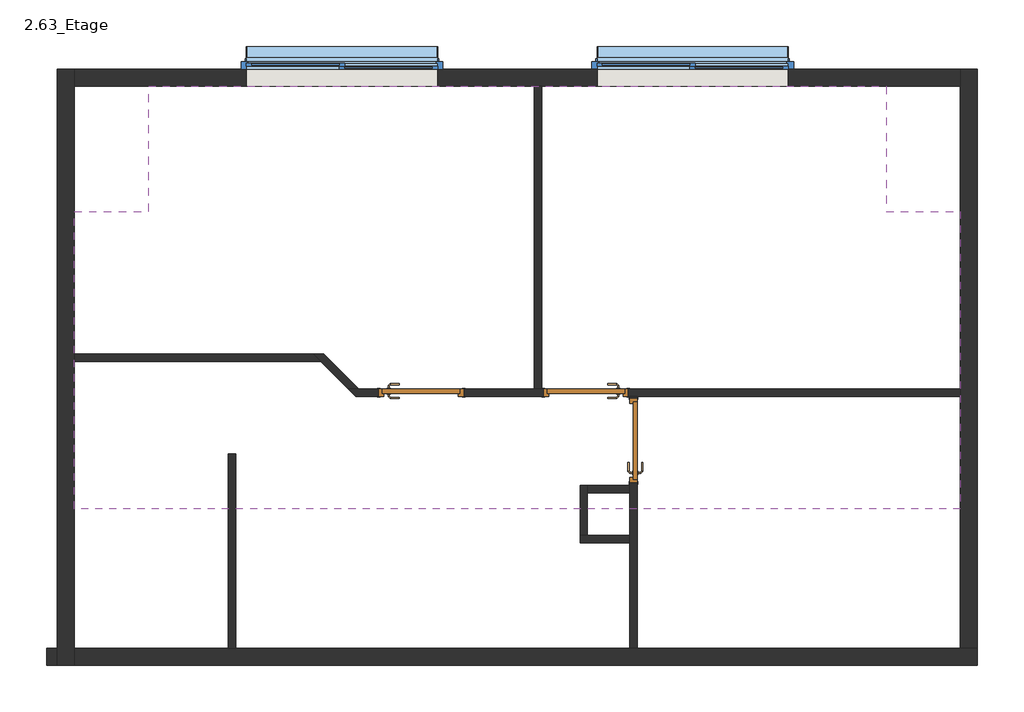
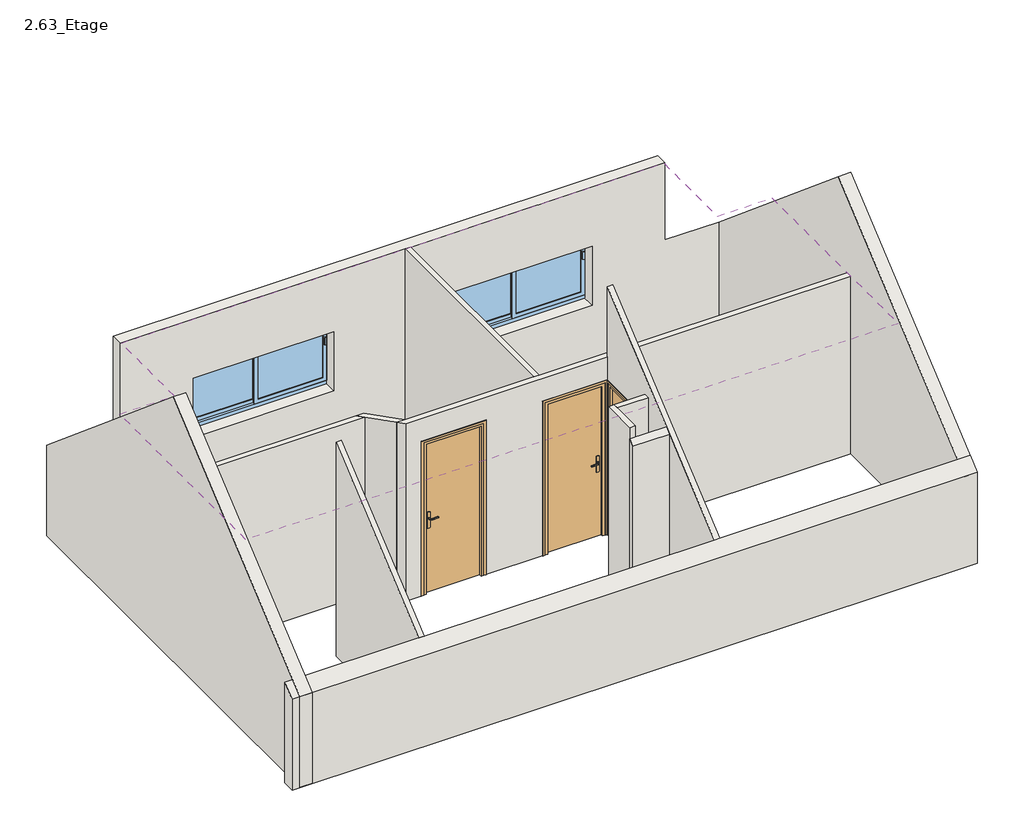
# One storey: 13 walls, 3 doors, 2 windows, 1 covering.
"""IFC4 building model written with IfcOpenShell, lengths in millimetres."""

from ifc_helpers import new_model, si_unit, frame, origin, place, context, project, spatial, polyline, outline, extrude, faceted_brep, transform, mapped, element, save
from components import int_simple_pp_0_73m_x_2_04m_0234ae46, int_simple_pp_0_73m_x_2_04m_d65dadfb, window_180_80_56cb69c2

model = new_model("IFC4")

# Units and contexts
model_context = context("Model", 3, world=origin())
ifc_project = project(units=[si_unit("LENGTHUNIT", "METRE", prefix="MILLI")], contexts=[model_context])

# Site, building, storey
site = spatial("IfcSite", under=ifc_project)
building = spatial("IfcBuilding", under=site)
storey = spatial("IfcBuildingStorey", under=building, Name="2.63_Etage", Elevation=2630.0)

# Covering
placement = place(None, origin())
element("IfcCovering", 1, ObjectType="Plafond avec isolation", at=placement, inside=storey, context=model_context, shape_type="SweptSolid", body=[
    extrude(outline(polyline([(-9881.7726031, 6859.9231713), (-9881.7726031, 5682.4512571), (-9181.7726031, 5682.4512571), (-9181.7726031, 2882.4512571), (-17521.7726031, 2882.4512571), (-17521.7726031, 5682.4512571), (-16821.7726031, 5682.4512571), (-16821.7726031, 6859.9231713), (-9881.7726031, 6859.9231713)])), frame((0.0, 0.0, 5030.0), z_axis=(0.0, 0.0, 1.0), x_axis=(1.0, 0.0, 0.0)), (0.0, 0.0, 1.0), 70.0),
])

# Doors
int_simple_pp_0_73m_x_2_04m_shape = int_simple_pp_0_73m_x_2_04m_0234ae46(model_context)
element("IfcDoor", 2, ObjectType="Int. Simple : PP (0.73m x 2.04m)", at=placement, inside=storey, context=model_context, shape_type="MappedRepresentation", body=[
    mapped(int_simple_pp_0_73m_x_2_04m_shape, transform((-12741.7726031, 3974.9231713, 2630.0), x_axis=(-1.0, 0.0, 0.0), y_axis=(0.0, -1.0, 0.0), z_axis=(0.0, 0.0, 1.0))),
])
element("IfcDoor", 3, ObjectType="Int. Simple : PP (0.73m x 2.04m)", at=placement, inside=storey, context=model_context, shape_type="MappedRepresentation", body=[
    mapped(int_simple_pp_0_73m_x_2_04m_shape, transform((-12256.7726031, 3559.9231713, 2630.0), x_axis=(0.0, 1.0, 0.0), y_axis=(-1.0, 0.0, 0.0), z_axis=(0.0, 0.0, 1.0))),
])
int_simple_pp_0_73m_x_2_04m_2_shape = int_simple_pp_0_73m_x_2_04m_d65dadfb(model_context)
element("IfcDoor", 4, ObjectType="Int. Simple : PP (0.73m x 2.04m)", at=placement, inside=storey, context=model_context, shape_type="MappedRepresentation", body=[
    mapped(int_simple_pp_0_73m_x_2_04m_2_shape, transform((-14221.7726031, 3974.9231713, 2630.0), x_axis=(1.0, 0.0, 0.0), y_axis=(0.0, 1.0, 0.0), z_axis=(0.0, 0.0, 1.0))),
])

# Walls
element("IfcWall", 5, ObjectType="Doublage 16", at=placement, inside=storey, context=model_context, shape_type="Brep", body=[
    faceted_brep([(-9181.7726031, 7019.9231713, 2630.0), (-9181.7726031, 6859.9231713, 2630.0), (-9181.7726031, 4009.9231713, 2630.0), (-9181.7726031, 3939.9231713, 2630.0), (-9181.7726031, 1409.9231713, 2630.0), (-9181.7726031, 1409.9231713, 3855.1398525), (-9181.7726031, 4214.9231713, 6208.8143179), (-9181.7726031, 6859.9231713, 3989.3957935), (-9181.7726031, 7019.9231713, 3855.1398525), (-9021.7726031, 7019.9231713, 2630.0), (-9021.7726031, 7019.9231713, 3855.1398525), (-9021.7726031, 4214.9231713, 6208.8143179), (-9021.7726031, 1409.9231713, 3855.1398525), (-9021.7726031, 1409.9231713, 2630.0)], [[[0, 1, 2, 3, 4, 5, 6, 7, 8]], [[9, 10, 11, 12, 13]], [[4, 3, 2, 1, 0, 9, 13]], [[8, 7, 6, 11, 10]], [[6, 5, 12, 11]], [[5, 4, 13, 12]], [[0, 8, 10, 9]]]),
])
element("IfcWall", 6, ObjectType="Doublage 16", at=placement, inside=storey, context=model_context, shape_type="Brep", body=[
    faceted_brep([(-9021.7726031, 1569.9231713, 2630.0), (-12221.7726031, 1569.9231713, 2630.0), (-12291.7726031, 1569.9231713, 2630.0), (-16001.7726031, 1569.9231713, 2630.0), (-16071.7726031, 1569.9231713, 2630.0), (-17781.7726031, 1569.9231713, 2630.0), (-17781.7726031, 1569.9231713, 3989.3957935), (-16071.7726031, 1569.9231713, 3989.3957935), (-16001.7726031, 1569.9231713, 3989.3957935), (-12291.7726031, 1569.9231713, 3989.3957935), (-12221.7726031, 1569.9231713, 3989.3957935), (-9021.7726031, 1569.9231713, 3989.3957935), (-9021.7726031, 1409.9231713, 2630.0), (-9021.7726031, 1409.9231713, 3855.1398525), (-17781.7726031, 1409.9231713, 3855.1398525), (-17781.7726031, 1409.9231713, 2630.0)], [[[0, 1, 2, 3, 4, 5, 6, 7, 8, 9, 10, 11]], [[12, 13, 14, 15]], [[5, 4, 3, 2, 1, 0, 12, 15]], [[6, 5, 15, 14]], [[0, 11, 13, 12]], [[11, 10, 9, 8, 7, 6, 14, 13]]]),
])
element("IfcWall", 7, ObjectType="Doublage 16", at=placement, inside=storey, context=model_context, shape_type="Brep", body=[
    faceted_brep([(-17521.7726031, 1409.9231713, 2630.0), (-17521.7726031, 4269.9231713, 2630.0), (-17521.7726031, 4339.9231713, 2630.0), (-17521.7726031, 6859.9231713, 2630.0), (-17521.7726031, 7019.9231713, 2630.0), (-17521.7726031, 7019.9231713, 3855.1398525), (-17521.7726031, 6859.9231713, 3989.3957935), (-17521.7726031, 4214.9231713, 6208.8143179), (-17521.7726031, 1409.9231713, 3855.1398525), (-17681.7726031, 1409.9231713, 2630.0), (-17681.7726031, 1409.9231713, 3855.1398525), (-17681.7726031, 4214.9231713, 6208.8143179), (-17681.7726031, 7019.9231713, 3855.1398525), (-17681.7726031, 7019.9231713, 2630.0)], [[[0, 1, 2, 3, 4, 5, 6, 7, 8]], [[9, 10, 11, 12, 13]], [[4, 3, 2, 1, 0, 9, 13]], [[5, 4, 13, 12]], [[0, 8, 10, 9]], [[8, 7, 11, 10]], [[7, 6, 5, 12, 11]]]),
])
element("IfcWall", 8, ObjectType="Doublage 16", at=placement, inside=storey, context=model_context, shape_type="Brep", body=[
    faceted_brep([(-17521.7726031, 6859.9231713, 2630.0), (-13191.7726031, 6859.9231713, 2630.0), (-13121.7726031, 6859.9231713, 2630.0), (-9181.7726031, 6859.9231713, 2630.0), (-9181.7726031, 6859.9231713, 3989.3957935), (-9871.7726031, 6859.9231713, 3989.3957935), (-9871.7726031, 6859.9231713, 5030.0), (-13121.7726031, 6859.9231713, 5030.0), (-13191.7726031, 6859.9231713, 5030.0), (-16831.7726031, 6859.9231713, 5030.0), (-16831.7726031, 6859.9231713, 3989.3957935), (-17521.7726031, 6859.9231713, 3989.3957935), (-15901.7726031, 6859.9231713, 3430.0), (-15901.7726031, 6859.9231713, 4230.0), (-14101.7726031, 6859.9231713, 4230.0), (-14101.7726031, 6859.9231713, 3430.0), (-12601.7726031, 6859.9231713, 3430.0), (-12601.7726031, 6859.9231713, 4230.0), (-10801.7726031, 6859.9231713, 4230.0), (-10801.7726031, 6859.9231713, 3430.0), (-9181.7726031, 7019.9231713, 2630.0), (-17521.7726031, 7019.9231713, 2630.0), (-17521.7726031, 7019.9231713, 3855.1398525), (-16831.7726031, 7019.9231713, 3855.1398525), (-16831.7726031, 7019.9231713, 5030.0), (-9871.7726031, 7019.9231713, 5030.0), (-9871.7726031, 7019.9231713, 3855.1398525), (-9181.7726031, 7019.9231713, 3855.1398525), (-15901.7726031, 7019.9231713, 4230.0), (-15901.7726031, 7019.9231713, 3430.0), (-14101.7726031, 7019.9231713, 3430.0), (-14101.7726031, 7019.9231713, 4230.0), (-12601.7726031, 7019.9231713, 4230.0), (-12601.7726031, 7019.9231713, 3430.0), (-10801.7726031, 7019.9231713, 3430.0), (-10801.7726031, 7019.9231713, 4230.0)], [[[0, 1, 2, 3, 4, 5, 6, 7, 8, 9, 10, 11], [12, 13, 14, 15], [16, 17, 18, 19]], [[20, 21, 22, 23, 24, 25, 26, 27], [28, 29, 30, 31], [32, 33, 34, 35]], [[3, 2, 1, 0, 21, 20]], [[4, 3, 20, 27]], [[0, 11, 22, 21]], [[12, 29, 28, 13]], [[14, 31, 30, 15]], [[29, 12, 15, 30]], [[13, 28, 31, 14]], [[16, 33, 32, 17]], [[18, 35, 34, 19]], [[33, 16, 19, 34]], [[17, 32, 35, 18]], [[9, 24, 23, 10]], [[24, 9, 8, 7, 6, 25]], [[25, 6, 5, 26]], [[5, 4, 27, 26]], [[11, 10, 23, 22]]]),
])
element("IfcWall", 9, ObjectType="Cloison 7cm", at=placement, inside=storey, context=model_context, shape_type="Brep", body=[
    faceted_brep([(-14941.7726031, 4009.9231713, 5030.0), (-14842.7776538, 4009.9231713, 5030.0), (-13191.7726031, 4009.9231713, 5030.0), (-13121.7726031, 4009.9231713, 5030.0), (-9181.7726031, 4009.9231713, 5030.0), (-9181.7726031, 4009.9231713, 2630.0), (-12306.7726031, 4009.9231713, 2630.0), (-12306.7726031, 4009.9231713, 4705.0), (-13106.7726031, 4009.9231713, 4705.0), (-13106.7726031, 4009.9231713, 2630.0), (-13121.7726031, 4009.9231713, 2630.0), (-13191.7726031, 4009.9231713, 2630.0), (-13856.7726031, 4009.9231713, 2630.0), (-13856.7726031, 4009.9231713, 4705.0), (-14656.7726031, 4009.9231713, 4705.0), (-14656.7726031, 4009.9231713, 2630.0), (-14842.7776538, 4009.9231713, 2630.0), (-14941.7726031, 4009.9231713, 2630.0), (-9181.7726031, 3939.9231713, 5030.0), (-14871.7726031, 3939.9231713, 5030.0), (-14871.7726031, 3939.9231713, 2630.0), (-14656.7726031, 3939.9231713, 2630.0), (-14656.7726031, 3939.9231713, 4705.0), (-13856.7726031, 3939.9231713, 4705.0), (-13856.7726031, 3939.9231713, 2630.0), (-13106.7726031, 3939.9231713, 2630.0), (-13106.7726031, 3939.9231713, 4705.0), (-12306.7726031, 3939.9231713, 4705.0), (-12306.7726031, 3939.9231713, 2630.0), (-12291.7726031, 3939.9231713, 2630.0), (-12221.7726031, 3939.9231713, 2630.0), (-9181.7726031, 3939.9231713, 2630.0)], [[[0, 1, 2, 3, 4, 5, 6, 7, 8, 9, 10, 11, 12, 13, 14, 15, 16, 17]], [[18, 19, 20, 21, 22, 23, 24, 25, 26, 27, 28, 29, 30, 31]], [[5, 31, 30, 29, 28, 6]], [[20, 17, 16, 15, 21]], [[24, 12, 11, 10, 9, 25]], [[4, 3, 2, 1, 0, 19, 18]], [[5, 4, 18, 31]], [[0, 17, 20, 19]], [[23, 13, 12, 24]], [[13, 23, 22, 14]], [[14, 22, 21, 15]], [[8, 26, 25, 9]], [[26, 8, 7, 27]], [[27, 7, 6, 28]]]),
])
element("IfcWall", 10, ObjectType="Cloison 7cm", at=placement, inside=storey, context=model_context, shape_type="Brep", body=[
    faceted_brep([(-14842.7776538, 4009.9231713, 2630.0), (-15172.7776538, 4339.9231713, 2630.0), (-15172.7776538, 4339.9231713, 5030.0), (-14842.7776538, 4009.9231713, 5030.0), (-14941.7726031, 4009.9231713, 2630.0), (-14941.7726031, 4009.9231713, 5030.0), (-15201.7726031, 4269.9231713, 5030.0), (-15271.7726031, 4339.9231713, 5030.0), (-15271.7726031, 4339.9231713, 2630.0), (-15201.7726031, 4269.9231713, 2630.0)], [[[0, 1, 2, 3]], [[4, 5, 6, 7, 8, 9]], [[1, 0, 4, 9, 8]], [[3, 2, 7, 6, 5]], [[0, 3, 5, 4]], [[2, 1, 8, 7]]]),
])
element("IfcWall", 11, ObjectType="Cloison 7cm", at=placement, inside=storey, context=model_context, shape_type="SweptSolid", body=[
    extrude(outline(polyline([(-17521.7726031, 4339.9231713), (-15271.7726031, 4339.9231713), (-15201.7726031, 4269.9231713), (-17521.7726031, 4269.9231713), (-17521.7726031, 4339.9231713)])), frame((0.0, 0.0, 2630.0), z_axis=(0.0, 0.0, 1.0), x_axis=(1.0, 0.0, 0.0)), (0.0, 0.0, 1.0), 2400.0),
])
element("IfcWall", 12, ObjectType="Cloison 7cm", at=placement, inside=storey, context=model_context, shape_type="SweptSolid", body=[
    extrude(outline(polyline([(-13191.7726031, 4009.9231713), (-13191.7726031, 6859.9231713), (-13121.7726031, 6859.9231713), (-13121.7726031, 4009.9231713), (-13191.7726031, 4009.9231713)])), frame((0.0, 0.0, 2630.0), z_axis=(0.0, 0.0, 1.0), x_axis=(1.0, 0.0, 0.0)), (0.0, 0.0, 1.0), 2400.0),
])
element("IfcWall", 13, ObjectType="Cloison 7cm", at=placement, inside=storey, context=model_context, shape_type="Brep", body=[
    faceted_brep([(-12291.7726031, 1569.9231713, 2630.0), (-12291.7726031, 1569.9231713, 3989.3957935), (-12291.7726031, 2559.9231713, 4820.1044283), (-12291.7726031, 2629.9231713, 4878.8414025), (-12291.7726031, 3939.9231713, 5978.0619193), (-12291.7726031, 3939.9231713, 2630.0), (-12291.7726031, 3924.9231713, 2630.0), (-12291.7726031, 3924.9231713, 4705.0), (-12291.7726031, 3124.9231713, 4705.0), (-12291.7726031, 3124.9231713, 2630.0), (-12291.7726031, 3099.9231713, 2630.0), (-12291.7726031, 3029.9231713, 2630.0), (-12291.7726031, 2629.9231713, 2630.0), (-12291.7726031, 2559.9231713, 2630.0), (-12221.7726031, 1569.9231713, 3989.3957935), (-12221.7726031, 1569.9231713, 2630.0), (-12221.7726031, 3124.9231713, 2630.0), (-12221.7726031, 3124.9231713, 4705.0), (-12221.7726031, 3924.9231713, 4705.0), (-12221.7726031, 3924.9231713, 2630.0), (-12221.7726031, 3939.9231713, 2630.0), (-12221.7726031, 3939.9231713, 5978.0619193)], [[[0, 1, 2, 3, 4, 5, 6, 7, 8, 9, 10, 11, 12, 13]], [[14, 15, 16, 17, 18, 19, 20, 21]], [[5, 20, 19, 6]], [[15, 0, 13, 12, 11, 10, 9, 16]], [[1, 0, 15, 14]], [[5, 4, 21, 20]], [[18, 7, 6, 19]], [[7, 18, 17, 8]], [[8, 17, 16, 9]], [[4, 3, 2, 1, 14, 21]]]),
])
element("IfcWall", 14, ObjectType="Cloison 7cm", at=placement, inside=storey, context=model_context, shape_type="Brep", body=[
    faceted_brep([(-12291.7726031, 2629.9231713, 2630.0), (-12691.7726031, 2629.9231713, 2630.0), (-12761.7726031, 2629.9231713, 2630.0), (-12761.7726031, 2629.9231713, 4878.8414025), (-12291.7726031, 2629.9231713, 4878.8414025), (-12291.7726031, 2559.9231713, 2630.0), (-12291.7726031, 2559.9231713, 4820.1044283), (-12761.7726031, 2559.9231713, 4820.1044283), (-12761.7726031, 2559.9231713, 2630.0)], [[[0, 1, 2, 3, 4]], [[5, 6, 7, 8]], [[2, 1, 0, 5, 8]], [[0, 4, 6, 5]], [[3, 2, 8, 7]], [[4, 3, 7, 6]]]),
])
element("IfcWall", 15, ObjectType="Cloison 7cm", at=placement, inside=storey, context=model_context, shape_type="Brep", body=[
    faceted_brep([(-12691.7726031, 2629.9231713, 2630.0), (-12691.7726031, 3029.9231713, 2630.0), (-12691.7726031, 3099.9231713, 2630.0), (-12691.7726031, 3099.9231713, 5030.0), (-12691.7726031, 3029.9231713, 5030.0), (-12691.7726031, 2629.9231713, 5030.0), (-12761.7726031, 2629.9231713, 2630.0), (-12761.7726031, 2629.9231713, 4878.8414025), (-12761.7726031, 2629.9231713, 5030.0), (-12761.7726031, 3099.9231713, 5030.0), (-12761.7726031, 3099.9231713, 2630.0)], [[[0, 1, 2, 3, 4, 5]], [[6, 7, 8, 9, 10]], [[2, 1, 0, 6, 10]], [[5, 4, 3, 9, 8]], [[0, 5, 8, 7, 6]], [[3, 2, 10, 9]]]),
])
element("IfcWall", 16, ObjectType="Cloison 7cm", at=placement, inside=storey, context=model_context, shape_type="SweptSolid", body=[
    extrude(outline(polyline([(-12291.7726031, 3029.9231713), (-12691.7726031, 3029.9231713), (-12691.7726031, 3099.9231713), (-12291.7726031, 3099.9231713), (-12291.7726031, 3029.9231713)])), frame((0.0, 0.0, 2630.0), z_axis=(0.0, 0.0, 1.0), x_axis=(1.0, 0.0, 0.0)), (0.0, 0.0, 1.0), 2400.0),
])
element("IfcWall", 17, ObjectType="Cloison 7cm", at=placement, inside=storey, context=model_context, shape_type="SweptSolid", body=[
    extrude(outline(polyline([(1569.9231713, 2630.0), (1569.9231713, 3989.3957935), (3399.9231713, 5524.9481185), (3399.9231713, 2630.0), (1569.9231713, 2630.0)])), frame((-16071.7726031, 0.0, 0.0), z_axis=(1.0, 0.0, 0.0), x_axis=(0.0, 1.0, 0.0)), (0.0, 0.0, 1.0), 70.0),
])

# Windows
window_180_80_shape = window_180_80_56cb69c2(model_context)
element("IfcWindow", 18, ObjectType="2 Vantaux coulissants - Droits blanc : 180/80", at=placement, inside=storey, context=model_context, shape_type="MappedRepresentation", body=[
    mapped(window_180_80_shape, transform((-15001.7726031, 7119.9231713, 2630.0), x_axis=(1.0, 0.0, 0.0), y_axis=(0.0, 1.0, 0.0), z_axis=(0.0, 0.0, 1.0))),
])
element("IfcWindow", 19, ObjectType="2 Vantaux coulissants - Droits blanc : 180/80", at=placement, inside=storey, context=model_context, shape_type="MappedRepresentation", body=[
    mapped(window_180_80_shape, transform((-11701.7726031, 7119.9231713, 2630.0), x_axis=(1.0, 0.0, 0.0), y_axis=(0.0, 1.0, 0.0), z_axis=(0.0, 0.0, 1.0))),
])

save(model, "model.ifc")
